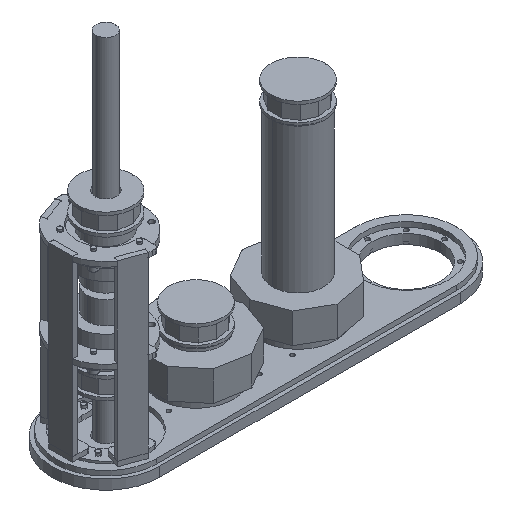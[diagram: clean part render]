
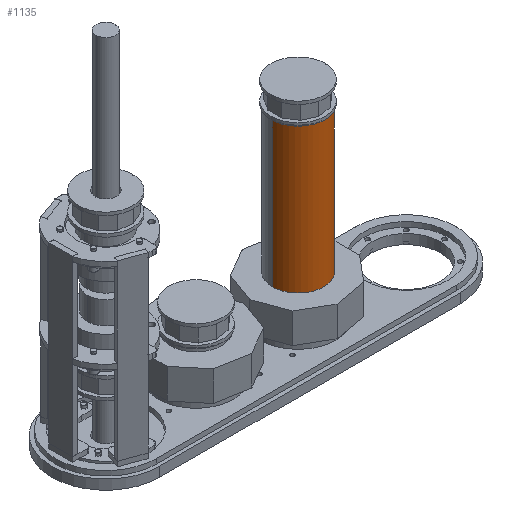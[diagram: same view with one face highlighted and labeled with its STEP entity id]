
A CAD part, isometric view. The second image highlights one B-rep face of the part: STEP entity #1135.
In plain terms, the highlighted cylindrical face has radius 21.5 mm (diameter 43 mm), a partial arc.
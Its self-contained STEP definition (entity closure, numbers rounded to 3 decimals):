
#238 = ORIENTED_EDGE ( 'NONE', *, *, #7758, .F. ) ;
#715 = CARTESIAN_POINT ( 'NONE',  ( 13.5, 0., 166.5 ) ) ;
#1135 = ADVANCED_FACE ( 'NONE', ( #12592 ), #4883, .T. ) ;
#1250 = CARTESIAN_POINT ( 'NONE',  ( 35., 0., 166.5 ) ) ;
#1535 = DIRECTION ( 'NONE',  ( 0., 0., -1. ) ) ;
#2179 = DIRECTION ( 'NONE',  ( 0., 0., 1. ) ) ;
#2344 = EDGE_CURVE ( 'NONE', #3137, #11651, #6617, .T. ) ;
#2441 = EDGE_CURVE ( 'NONE', #11168, #3137, #11567, .T. ) ;
#3137 = VERTEX_POINT ( 'NONE', #4048 ) ;
#3683 = DIRECTION ( 'NONE',  ( 1., 0., 0. ) ) ;
#3946 = AXIS2_PLACEMENT_3D ( 'NONE', #11633, #10029, #3683 ) ;
#4048 = CARTESIAN_POINT ( 'NONE',  ( 56.5, 0., 166.5 ) ) ;
#4282 = ORIENTED_EDGE ( 'NONE', *, *, #2441, .T. ) ;
#4841 = VECTOR ( 'NONE', #5251, 1000. ) ;
#4883 = CYLINDRICAL_SURFACE ( 'NONE', #3946, 21.5 ) ;
#5122 = ORIENTED_EDGE ( 'NONE', *, *, #2344, .T. ) ;
#5251 = DIRECTION ( 'NONE',  ( 0., 0., 1. ) ) ;
#5317 = CARTESIAN_POINT ( 'NONE',  ( 35., 0., 45.5 ) ) ;
#5889 = CARTESIAN_POINT ( 'NONE',  ( 13.5, 0., 45.5 ) ) ;
#6617 = CIRCLE ( 'NONE', #16378, 21.5 ) ;
#7564 = CARTESIAN_POINT ( 'NONE',  ( 13.5, 0., 166.5 ) ) ;
#7758 = EDGE_CURVE ( 'NONE', #11168, #11591, #14140, .T. ) ;
#8783 = DIRECTION ( 'NONE',  ( 0., 0., -1. ) ) ;
#9560 = VECTOR ( 'NONE', #2179, 1000. ) ;
#9916 = EDGE_CURVE ( 'NONE', #11591, #11651, #12696, .T. ) ;
#9944 = EDGE_LOOP ( 'NONE', ( #13146, #238, #4282, #5122 ) ) ;
#10029 = DIRECTION ( 'NONE',  ( 0., 0., 1. ) ) ;
#10261 = CARTESIAN_POINT ( 'NONE',  ( 56.5, 0., 166.5 ) ) ;
#10417 = DIRECTION ( 'NONE',  ( 1., 0., 0. ) ) ;
#11168 = VERTEX_POINT ( 'NONE', #11266 ) ;
#11266 = CARTESIAN_POINT ( 'NONE',  ( 56.5, 0., 45.5 ) ) ;
#11567 = LINE ( 'NONE', #10261, #4841 ) ;
#11591 = VERTEX_POINT ( 'NONE', #5889 ) ;
#11633 = CARTESIAN_POINT ( 'NONE',  ( 35., 0., 166.5 ) ) ;
#11651 = VERTEX_POINT ( 'NONE', #7564 ) ;
#12592 = FACE_OUTER_BOUND ( 'NONE', #9944, .T. ) ;
#12696 = LINE ( 'NONE', #715, #9560 ) ;
#13146 = ORIENTED_EDGE ( 'NONE', *, *, #9916, .F. ) ;
#14140 = CIRCLE ( 'NONE', #15159, 21.5 ) ;
#15159 = AXIS2_PLACEMENT_3D ( 'NONE', #5317, #1535, #10417 ) ;
#15199 = DIRECTION ( 'NONE',  ( 1., 0., 0. ) ) ;
#16378 = AXIS2_PLACEMENT_3D ( 'NONE', #1250, #8783, #15199 ) ;
